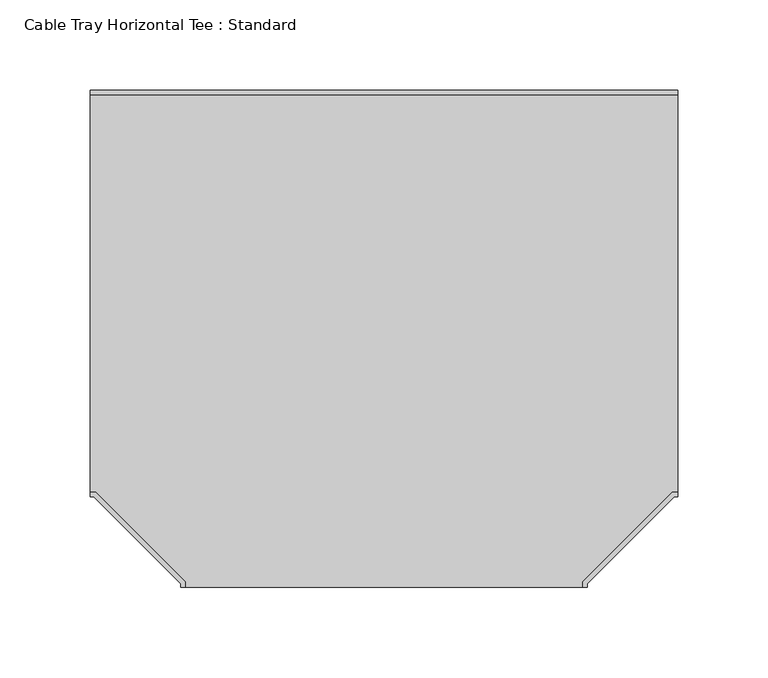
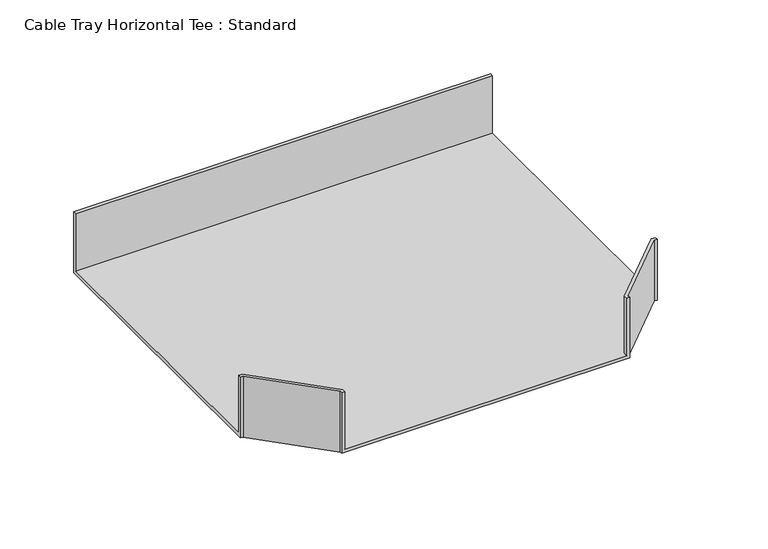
"""IFC4 building model written with IfcOpenShell, lengths in millimetres: cable carrier fitting geometry, Cable Tray Horizontal Tee : Standard."""

from ifc_helpers import new_model, si_unit, origin, place, context, project, spatial, faceted_brep, source, transform, mapped, element, save


def cable_tray_horizontal_tee_standard_d76b5e15(model_context):
    return source(origin(), model_context, "Body", "Brep", [
        faceted_brep([(-109.96, -162.5, -22.46), (109.96, -162.5, -22.46), (109.96, -159.4478976, -22.46), (159.4478976, -109.96, -22.46), (162.5, -109.96, -22.46), (162.5, 109.96, -22.46), (-162.5, 109.96, -22.46), (-162.5, -109.96, -22.46), (-159.4478976, -109.96, -22.46), (-109.96, -159.4478976, -22.46), (-112.5, -160.5, -25.0), (-160.5, -112.5, -25.0), (-162.5, -112.5, -25.0), (-162.5, 112.5, -25.0), (162.5, 112.5, -25.0), (162.5, -112.5, -25.0), (160.5, -112.5, -25.0), (112.5, -160.5, -25.0), (112.5, -162.5, -25.0), (-112.5, -162.5, -25.0), (-112.5, -162.5, 25.0), (-112.5, -160.5, 25.0), (112.5, -162.5, 25.0), (109.96, -162.5, 25.0), (-109.96, -162.5, 25.0), (112.5, -160.5, 25.0), (160.5, -112.5, 25.0), (162.5, -112.5, 25.0), (162.5, 112.5, 25.0), (162.5, 109.96, 25.0), (162.5, -109.96, 25.0), (-162.5, 112.5, 25.0), (-162.5, -112.5, 25.0), (-162.5, -109.96, 25.0), (-162.5, 109.96, 25.0), (-160.5, -112.5, 25.0), (-109.96, -159.4478976, 25.0), (-159.4478976, -109.96, 25.0), (109.96, -159.4478976, 25.0), (159.4478976, -109.96, 25.0)], [[[0, 1, 2, 3, 4, 5, 6, 7, 8, 9]], [[10, 11, 12, 13, 14, 15, 16, 17, 18, 19]], [[10, 19, 20, 21]], [[20, 19, 18, 22, 23, 1, 0, 24]], [[22, 18, 17, 25]], [[25, 17, 16, 26]], [[26, 16, 15, 27]], [[27, 15, 14, 28, 29, 5, 4, 30]], [[28, 14, 13, 31]], [[31, 13, 12, 32, 33, 7, 6, 34]], [[32, 12, 11, 35]], [[35, 11, 10, 21]], [[28, 31, 34, 29]], [[36, 37, 33, 32, 35, 21, 20, 24]], [[38, 23, 22, 25, 26, 27, 30, 39]], [[37, 36, 9, 8]], [[33, 37, 8, 7]], [[36, 24, 0, 9]], [[39, 30, 4, 3]], [[38, 39, 3, 2]], [[23, 38, 2, 1]], [[29, 34, 6, 5]]]),
    ])


if __name__ == "__main__":
    model = new_model("IFC4")
    model_context = context("Model", 3, world=origin())
    ifc_project = project(units=[si_unit("LENGTHUNIT", "METRE", prefix="MILLI")], contexts=[model_context])
    site = spatial("IfcSite", under=ifc_project)
    building = spatial("IfcBuilding", under=site)
    placement = place(None, origin())
    cable_tray_horizontal_tee_standard_shape = cable_tray_horizontal_tee_standard_d76b5e15(model_context)
    element("IfcCableCarrierFitting", 1, ObjectType="Cable Tray Horizontal Tee : Standard", at=placement, inside=building, context=model_context, shape_type="MappedRepresentation", body=[
        mapped(cable_tray_horizontal_tee_standard_shape, transform((0.0, 0.0, 0.0), x_axis=(1.0, 0.0, 0.0), y_axis=(0.0, 1.0, 0.0), z_axis=(0.0, 0.0, 1.0))),
    ])
    save(model, "model.ifc")
